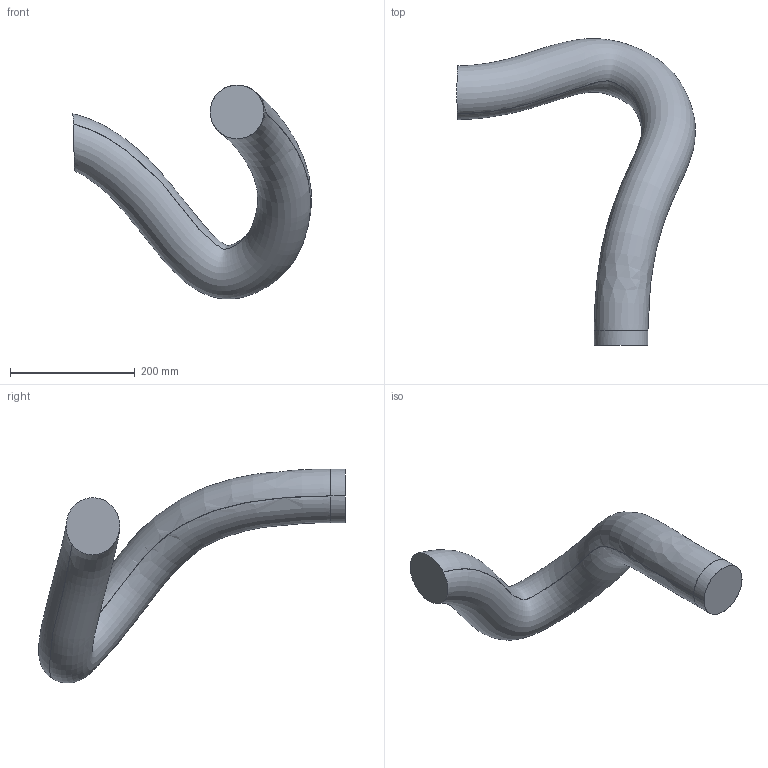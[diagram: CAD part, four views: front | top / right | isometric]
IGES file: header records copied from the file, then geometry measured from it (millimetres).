
Start section: SolidWorks IGES file using analytic representation for surfaces
Global section: file name: C:\Users\SEJAOLS6\OneDrive - ABB\Documents\SAP\7710\7710_Lightweight_models\IRB7710-LID-SW_400kg-285_OC_01_SW_J\IRB7710-LID-SW_400kg-285_OC_01_IGES_J\IRB7710_All-285_OC_00_LINK05_CABLE.igs; native system: SolidWorks 2024; preprocessor: SolidWorks 2024; author: SEJAOLS6; date: 260127.071726; units: millimetre
Bounding box: 381.34 x 491.32 x 342.58 mm (x, y, z)
Surface area: 262977.3 mm2 (no closed solid volume)
Topology: 0 solids, 0 shells, 6 faces, 183 edges, 183 vertices
Faces by surface type: bspline 4, revolution 2
